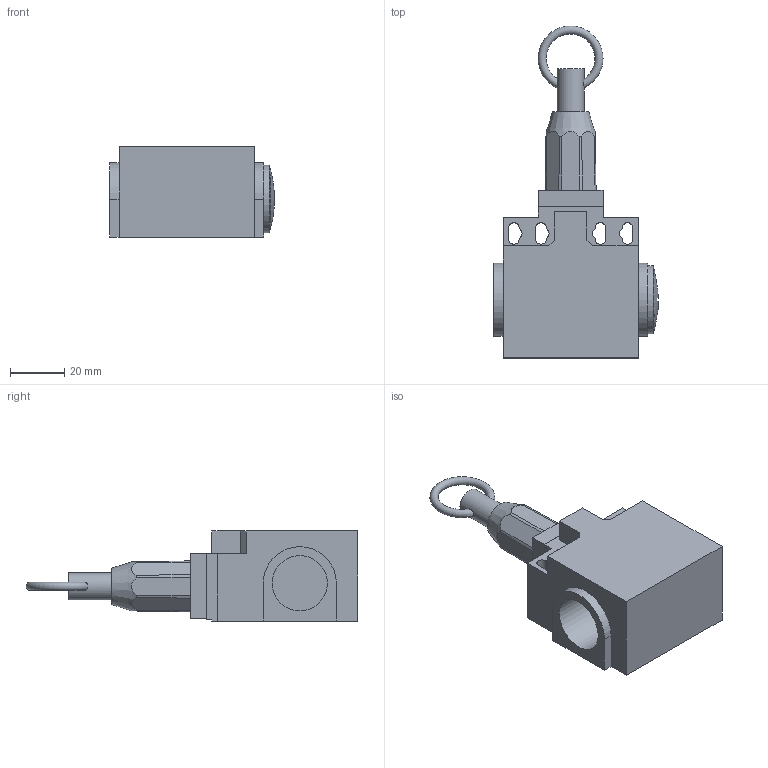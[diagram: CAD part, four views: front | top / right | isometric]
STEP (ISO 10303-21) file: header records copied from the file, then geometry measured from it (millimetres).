
FILE_DESCRIPTION((''),'2;1');
FILE_NAME('D:\Documenti_D\Corrispondenza\Comepi\Catalogo da fare\Modelli Nov 2011\DP\STEP\DP1-T98.iam.step','2011-11-17T12:05:15',(''),(''),'Autodesk Inventor 2010','Autodesk Inventor 2010','');
FILE_SCHEMA(('AUTOMOTIVE_DESIGN { 1 0 10303 214 1 1 1 1 }'));
Length unit declared in the file: millimetre
Products named in the file (7): DP1-T98; T98.iam; T98_1; T98_2; DP1; tappo
Assembly tree (6 placements, depth 3):
  DP1-T98
    T98.iam
      T98_1
      T98_2
    DP1
      DP1
      tappo
Bounding box: 60.92 x 122.75 x 33.3 mm (x, y, z)
Volume: 82418.4 mm3; surface area: 24390.2 mm2
Topology: 4 solids, 4 shells, 92 faces, 245 edges, 163 vertices
Faces by surface type: plane 62, cylinder 18, cone 10, torus 1, sphere 1
Full cylindrical faces by diameter (mm): 10 x2, 20.4 x1, 25 x1
Entity records: 3081 total; most frequent: CARTESIAN_POINT 617, DIRECTION 476, ORIENTED_EDGE 468, EDGE_CURVE 234, AXIS2_PLACEMENT_3D 163, VERTEX_POINT 160, VECTOR 150, LINE 150
